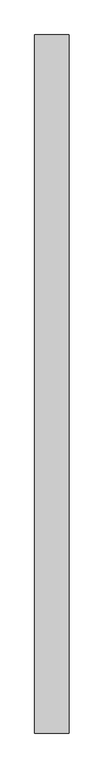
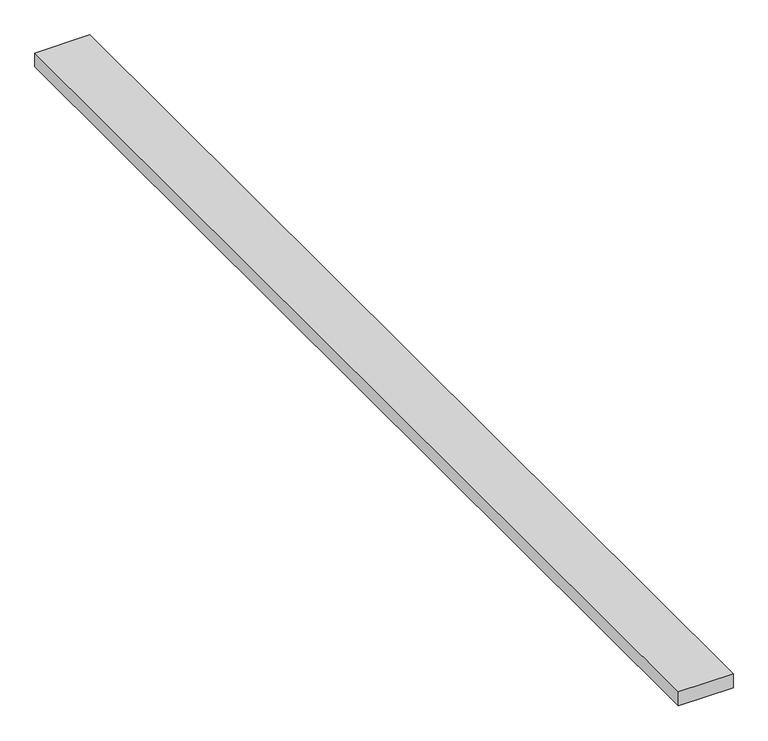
"""IFC4 building model written with IfcOpenShell, lengths in millimetres: proxy geometry, Modelos genéricos 121 : Modelos genéricos 27."""

from ifc_helpers import new_model, si_unit, frame, origin, place, context, project, spatial, polyline, outline, extrude, source, transform, mapped, element, save


def generic_models_6ae4f0e4(model_context):
    return source(origin(), model_context, "Body", "SweptSolid", [
        extrude(outline(polyline([(-18815.5354949, -3102.0417559), (-18665.5354949, -3102.0417559), (-18665.5354949, -6159.947466), (-18815.5354949, -6159.947466), (-18815.5354949, -3102.0417559)])), frame((0.0, 0.0, 1260.0), z_axis=(0.0, 0.0, 1.0), x_axis=(1.0, 0.0, 0.0)), (0.0, 0.0, 1.0), 40.0),
    ])


if __name__ == "__main__":
    model = new_model("IFC4")
    model_context = context("Model", 3, world=origin())
    ifc_project = project(units=[si_unit("LENGTHUNIT", "METRE", prefix="MILLI")], contexts=[model_context])
    site = spatial("IfcSite", under=ifc_project)
    building = spatial("IfcBuilding", under=site)
    placement = place(None, origin())
    generic_models_shape = generic_models_6ae4f0e4(model_context)
    element("IfcBuildingElementProxy", 1, Name="Modelos genéricos 121 : Modelos genéricos 27", ObjectType="Modelos genéricos 121 : Modelos genéricos 27", at=placement, inside=building, context=model_context, shape_type="MappedRepresentation", body=[
        mapped(generic_models_shape, transform((0.0, 0.0, 0.0), x_axis=(1.0, 0.0, 0.0), y_axis=(0.0, 1.0, 0.0), z_axis=(0.0, 0.0, 1.0))),
    ])
    save(model, "model.ifc")
